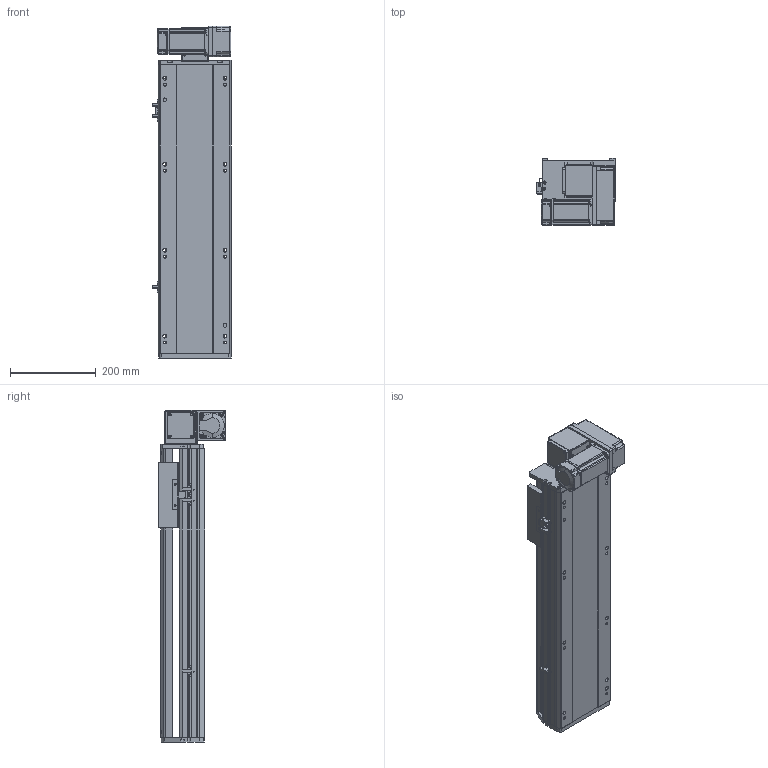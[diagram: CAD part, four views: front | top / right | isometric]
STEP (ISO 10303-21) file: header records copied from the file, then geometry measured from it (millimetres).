
FILE_DESCRIPTION (( 'STEP AP214' ), '1' );
FILE_NAME ('RTB17S-XX-400-RM-M40-C4.STEP', '2025-12-11T08:11:07', ( '' ), ( '' ), 'SwSTEP 2.0', 'SolidWorks 2018', '' );
FILE_SCHEMA (( 'AUTOMOTIVE_DESIGN' ));
Length unit declared in the file: millimetre
Products named in the file (14): OMRON EE-SX672 传感器^RTB17S-XX-XX-RM-M40-C4; RTB17-R-011菁釱^RTB17S-XX-XX-RM-M40-C4; RTB14-L-017P^RTB17S-RM-々湍釱蚾饜-400W_RTB17S-XX-XX-RM-M40-C4; RTB17S-L-014-T20--々湍釱^RTB17S-RM-々湍釱蚾饜-400W_RTB17S-XX-XX-RM-M40-C4; RTB17S-RM-々湍釱蚾饜-400W^RTB17S-XX-XX-RM-M40-C4; RTB14-L-018P^RTB17S-RM-々湍釱蚾饜-400W_RTB17S-XX-XX-RM-M40-C4; RTB17S-L-007奻裔^RTB17S-XX-XX-RM-M40-C4; RTB17S-XX-400-RM-M40-C4; RTB17S-L-001耜醱啣^RTB17S-XX-XX-RM-M40-C4; RTB17S-L-004佪裝蹟譫蟀諉釱^RTB17S-XX-XX-RM-M40-C4; RTH13-BL-012覜茼え俋离^RTB17S-XX-XX-RM-M40-C4; RTB14-L-008-M20--萇儂啣^RTB17S-RM-々湍釱蚾饜-400W_RTB17S-XX-XX-RM-M40-C4; 400W侜督萇儂^RTB17S-XX-XX-RM-M40-C4; RTB14-L-005P--轴承塑胶压盖^RTB17S-RM-皮带座装配-400W_RTB17S-XX-XX-RM-M40-C4
Assembly tree (16 placements, depth 3):
  RTB17S-XX-400-RM-M40-C4
    RTB17-R-011菁釱^RTB17S-XX-XX-RM-M40-C4
    RTB17S-L-007奻裔^RTB17S-XX-XX-RM-M40-C4
    OMRON EE-SX672 传感器^RTB17S-XX-XX-RM-M40-C4  x3
    RTB17S-L-001耜醱啣^RTB17S-XX-XX-RM-M40-C4
    400W侜督萇儂^RTB17S-XX-XX-RM-M40-C4
    RTB17S-L-004佪裝蹟譫蟀諉釱^RTB17S-XX-XX-RM-M40-C4
    RTH13-BL-012覜茼え俋离^RTB17S-XX-XX-RM-M40-C4
    RTB17S-RM-々湍釱蚾饜-400W^RTB17S-XX-XX-RM-M40-C4
      RTB17S-L-014-T20--々湍釱^RTB17S-RM-々湍釱蚾饜-400W_RTB17S-XX-XX-RM-M40-C4
      RTB14-L-005P--轴承塑胶压盖^RTB17S-RM-皮带座装配-400W_RTB17S-XX-XX-RM-M40-C4
      RTB14-L-008-M20--萇儂啣^RTB17S-RM-々湍釱蚾饜-400W_RTB17S-XX-XX-RM-M40-C4
      RTB14-L-017P^RTB17S-RM-々湍釱蚾饜-400W_RTB17S-XX-XX-RM-M40-C4  x2
      RTB14-L-018P^RTB17S-RM-々湍釱蚾饜-400W_RTB17S-XX-XX-RM-M40-C4
Bounding box: 183.5 x 156.5 x 772.5 mm (x, y, z)
Volume: 7484045.1 mm3; surface area: 963590.7 mm2
Topology: 15 solids, 15 shells, 2157 faces, 5925 edges, 3861 vertices
Faces by surface type: plane 1062, cylinder 647, bspline 301, cone 139, torus 8
Entity records: 60329 total; most frequent: CARTESIAN_POINT 16730, ORIENTED_EDGE 8694, DIRECTION 8126, EDGE_CURVE 4347, VERTEX_POINT 2849, AXIS2_PLACEMENT_3D 2779, LINE 2568, VECTOR 2568
